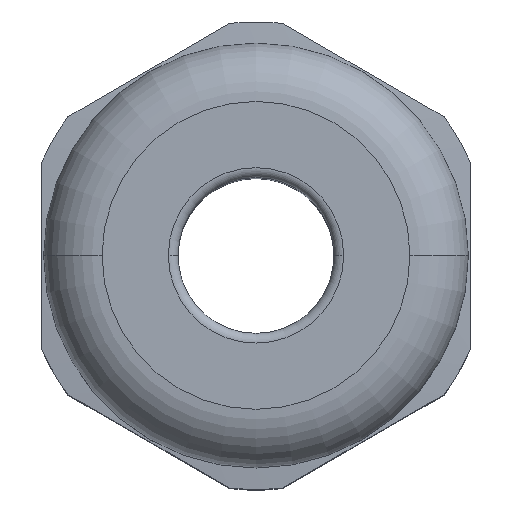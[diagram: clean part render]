
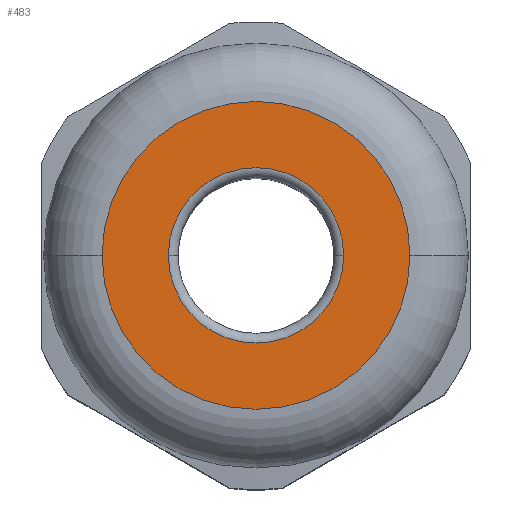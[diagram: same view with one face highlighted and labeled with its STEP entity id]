
A CAD part, top view. The second image highlights one B-rep face of the part: STEP entity #483.
In plain terms, the highlighted planar face has unit normal (0, 0, 1).
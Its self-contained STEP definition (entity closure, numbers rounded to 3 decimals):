
#252 = EDGE_CURVE ( 'NONE', #258, #253, #1284, .T. ) ;
#253 = VERTEX_POINT ( 'NONE', #1280 ) ;
#258 = VERTEX_POINT ( 'NONE', #1277 ) ;
#266 = VERTEX_POINT ( 'NONE', #1263 ) ;
#270 = EDGE_CURVE ( 'NONE', #271, #266, #1246, .T. ) ;
#271 = VERTEX_POINT ( 'NONE', #1247 ) ;
#478 = ORIENTED_EDGE ( 'NONE', *, *, #479, .T. ) ;
#479 = EDGE_CURVE ( 'NONE', #266, #271, #1569, .T. ) ;
#480 = ORIENTED_EDGE ( 'NONE', *, *, #252, .F. ) ;
#483 = ADVANCED_FACE ( 'NONE', ( #1570, #1636 ), #1635, .T. ) ;
#484 = ORIENTED_EDGE ( 'NONE', *, *, #270, .T. ) ;
#485 = ORIENTED_EDGE ( 'NONE', *, *, #492, .F. ) ;
#492 = EDGE_CURVE ( 'NONE', #253, #258, #1534, .T. ) ;
#568 = EDGE_LOOP ( 'NONE', ( #480, #485 ) ) ;
#570 = EDGE_LOOP ( 'NONE', ( #484, #478 ) ) ;
#1242 = DIRECTION ( 'NONE',  ( -1., 0., 0. ) ) ;
#1243 = DIRECTION ( 'NONE',  ( 0., 0., -1. ) ) ;
#1244 = CARTESIAN_POINT ( 'NONE',  ( 0., 0., 33.5 ) ) ;
#1245 = AXIS2_PLACEMENT_3D ( 'NONE', #1244, #1243, #1242 ) ;
#1246 = CIRCLE ( 'NONE', #1245, 4.5 ) ;
#1247 = CARTESIAN_POINT ( 'NONE',  ( -4.5, 0., 33.5 ) ) ;
#1263 = CARTESIAN_POINT ( 'NONE',  ( 4.5, 0., 33.5 ) ) ;
#1277 = CARTESIAN_POINT ( 'NONE',  ( -7.9, 0., 33.5 ) ) ;
#1280 = CARTESIAN_POINT ( 'NONE',  ( 7.9, 0., 33.5 ) ) ;
#1281 = DIRECTION ( 'NONE',  ( -1., 0., 0. ) ) ;
#1282 = DIRECTION ( 'NONE',  ( 0., 0., -1. ) ) ;
#1283 = AXIS2_PLACEMENT_3D ( 'NONE', #1288, #1282, #1281 ) ;
#1284 = CIRCLE ( 'NONE', #1283, 7.9 ) ;
#1288 = CARTESIAN_POINT ( 'NONE',  ( 0., 0., 33.5 ) ) ;
#1525 = CARTESIAN_POINT ( 'NONE',  ( 0., 0., 33.5 ) ) ;
#1531 = DIRECTION ( 'NONE',  ( -1., 0., 0. ) ) ;
#1532 = DIRECTION ( 'NONE',  ( 0., 0., -1. ) ) ;
#1533 = AXIS2_PLACEMENT_3D ( 'NONE', #1525, #1532, #1531 ) ;
#1534 = CIRCLE ( 'NONE', #1533, 7.9 ) ;
#1566 = DIRECTION ( 'NONE',  ( -1., 0., 0. ) ) ;
#1567 = DIRECTION ( 'NONE',  ( 0., 0., -1. ) ) ;
#1568 = AXIS2_PLACEMENT_3D ( 'NONE', #1594, #1567, #1566 ) ;
#1569 = CIRCLE ( 'NONE', #1568, 4.5 ) ;
#1570 = FACE_BOUND ( 'NONE', #570, .T. ) ;
#1580 = DIRECTION ( 'NONE',  ( 1., 0., 0. ) ) ;
#1581 = DIRECTION ( 'NONE',  ( 0., 0., 1. ) ) ;
#1582 = CARTESIAN_POINT ( 'NONE',  ( 0., 7.9, 33.5 ) ) ;
#1583 = AXIS2_PLACEMENT_3D ( 'NONE', #1582, #1581, #1580 ) ;
#1594 = CARTESIAN_POINT ( 'NONE',  ( 0., 0., 33.5 ) ) ;
#1635 = PLANE ( 'NONE',  #1583 ) ;
#1636 = FACE_OUTER_BOUND ( 'NONE', #568, .T. ) ;
